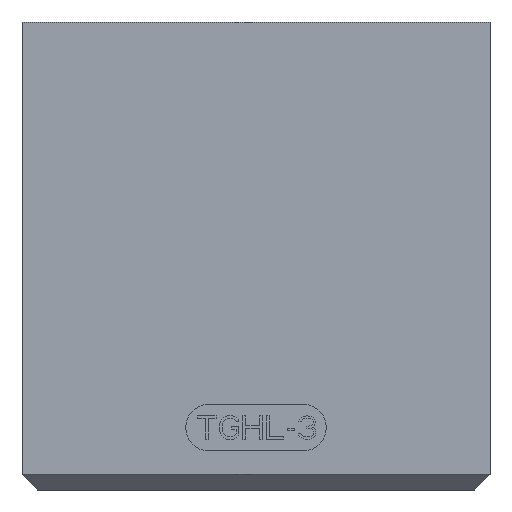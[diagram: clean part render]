
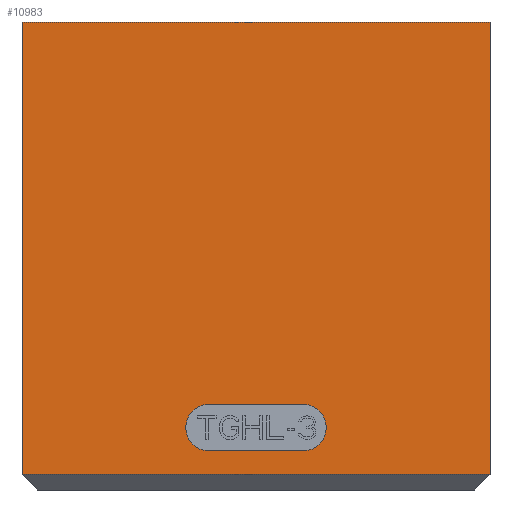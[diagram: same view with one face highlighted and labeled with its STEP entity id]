
A CAD part, front view. The second image highlights one B-rep face of the part: STEP entity #10983.
In plain terms, the highlighted planar face has unit normal (0, -1, 0).
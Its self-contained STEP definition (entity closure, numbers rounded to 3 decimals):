
#77=DIRECTION('',(1.,0.,0.));
#78=VECTOR('',#77,30.);
#79=CARTESIAN_POINT('',(-4.,-6.,3.));
#80=LINE('',#79,#78);
#2129=DIRECTION('',(0.,0.,1.));
#2130=VECTOR('',#2129,29.);
#2131=CARTESIAN_POINT('',(26.,-6.,-26.));
#2132=LINE('',#2131,#2130);
#2260=DIRECTION('',(-1.,0.,0.));
#2261=VECTOR('',#2260,30.);
#2262=CARTESIAN_POINT('',(26.,-6.,-26.));
#2263=LINE('',#2262,#2261);
#2267=DIRECTION('',(0.,0.,1.));
#2268=VECTOR('',#2267,29.);
#2269=CARTESIAN_POINT('',(-4.,-6.,-26.));
#2270=LINE('',#2269,#2268);
#2274=CARTESIAN_POINT('',(8.,-6.,-23.));
#2275=DIRECTION('',(0.,-1.,0.));
#2276=DIRECTION('',(0.,0.,1.));
#2277=AXIS2_PLACEMENT_3D('',#2274,#2275,#2276);
#2282=DIRECTION('',(1.,0.,0.));
#2283=VECTOR('',#2282,6.);
#2284=CARTESIAN_POINT('',(8.,-6.,-24.5));
#2285=LINE('',#2284,#2283);
#2289=CARTESIAN_POINT('',(14.,-6.,-23.));
#2290=DIRECTION('',(0.,-1.,0.));
#2291=DIRECTION('',(0.,0.,-1.));
#2292=AXIS2_PLACEMENT_3D('',#2289,#2290,#2291);
#2297=DIRECTION('',(-1.,0.,0.));
#2298=VECTOR('',#2297,6.);
#2299=CARTESIAN_POINT('',(14.,-6.,-21.5));
#2300=LINE('',#2299,#2298);
#5743=CARTESIAN_POINT('',(-4.,-6.,3.));
#5745=VERTEX_POINT('',#5743);
#5746=CARTESIAN_POINT('',(26.,-6.,3.));
#5747=VERTEX_POINT('',#5746);
#5760=CARTESIAN_POINT('',(-4.,-6.,-26.));
#5761=VERTEX_POINT('',#5760);
#5766=CARTESIAN_POINT('',(26.,-6.,-26.));
#5767=VERTEX_POINT('',#5766);
#5798=CARTESIAN_POINT('',(8.,-6.,-21.5));
#5799=CARTESIAN_POINT('',(8.,-6.,-24.5));
#5800=VERTEX_POINT('',#5798);
#5801=VERTEX_POINT('',#5799);
#5802=CARTESIAN_POINT('',(14.,-6.,-24.5));
#5803=VERTEX_POINT('',#5802);
#5804=CARTESIAN_POINT('',(14.,-6.,-21.5));
#5805=VERTEX_POINT('',#5804);
#10962=CARTESIAN_POINT('',(-4.,-6.,-27.));
#10963=DIRECTION('',(0.,-1.,0.));
#10964=DIRECTION('',(1.,0.,0.));
#10965=AXIS2_PLACEMENT_3D('',#10962,#10963,#10964);
#10966=PLANE('',#10965);
#10967=ORIENTED_EDGE('',*,*,#10956,.T.);
#10968=ORIENTED_EDGE('',*,*,#10931,.T.);
#10969=ORIENTED_EDGE('',*,*,#6523,.T.);
#10970=ORIENTED_EDGE('',*,*,#10843,.F.);
#10971=EDGE_LOOP('',(#10967,#10968,#10969,#10970));
#10972=FACE_OUTER_BOUND('',#10971,.F.);
#10974=ORIENTED_EDGE('',*,*,#10973,.T.);
#10976=ORIENTED_EDGE('',*,*,#10975,.T.);
#10978=ORIENTED_EDGE('',*,*,#10977,.T.);
#10980=ORIENTED_EDGE('',*,*,#10979,.T.);
#10981=EDGE_LOOP('',(#10974,#10976,#10978,#10980));
#10982=FACE_BOUND('',#10981,.F.);
#2278=CIRCLE('',#2277,1.5);
#2293=CIRCLE('',#2292,1.5);
#6523=EDGE_CURVE('',#5745,#5747,#80,.T.);
#10843=EDGE_CURVE('',#5767,#5747,#2132,.T.);
#10931=EDGE_CURVE('',#5761,#5745,#2270,.T.);
#10956=EDGE_CURVE('',#5767,#5761,#2263,.T.);
#10973=EDGE_CURVE('',#5800,#5801,#2278,.T.);
#10975=EDGE_CURVE('',#5801,#5803,#2285,.T.);
#10977=EDGE_CURVE('',#5803,#5805,#2293,.T.);
#10979=EDGE_CURVE('',#5805,#5800,#2300,.T.);
#10983=ADVANCED_FACE('',(#10972,#10982),#10966,.T.);
